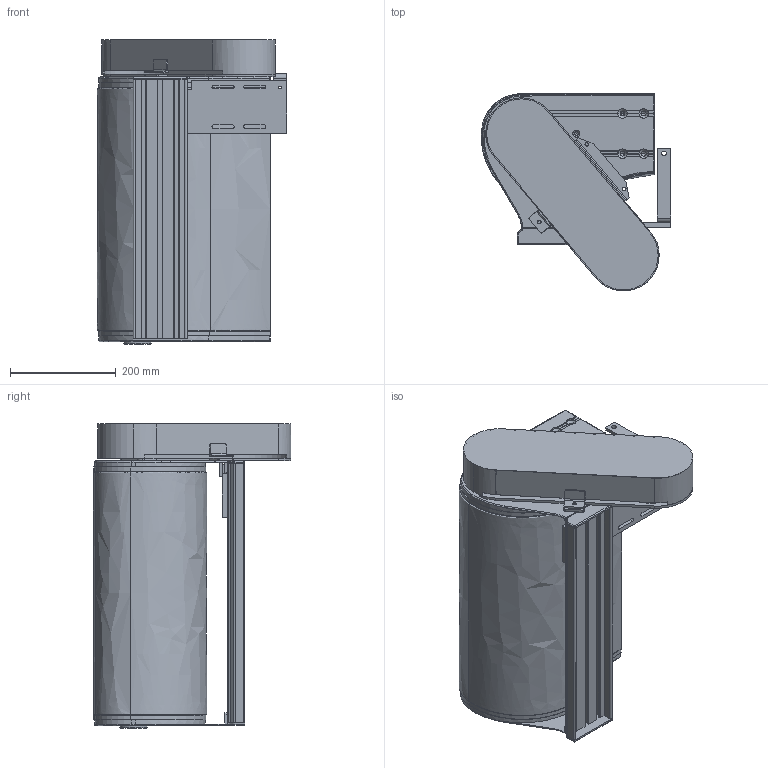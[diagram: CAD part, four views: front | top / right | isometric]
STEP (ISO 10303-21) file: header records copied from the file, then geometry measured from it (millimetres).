
FILE_DESCRIPTION (( 'STEP AP214' ), '1' );
FILE_NAME ('F2 1800 MSG20.step', '2017-04-05T07:30:37', ( '' ), ( '' ), 'SwSTEP 2.0', 'SolidWorks 2015', '' );
FILE_SCHEMA (( 'AUTOMOTIVE_DESIGN' ));
Length unit declared in the file: millimetre
Products named in the file (1): F2 1800 MSG20
Bounding box: 357.48 x 374.02 x 574.55 mm (x, y, z)
Volume: 30609192 mm3; surface area: 1228657.3 mm2
Topology: 8 solids, 8 shells, 819 faces, 2144 edges, 1317 vertices
Faces by surface type: cylinder 362, plane 267, torus 122, cone 40, bspline 28
Entity records: 29466 total; most frequent: CARTESIAN_POINT 7098, DIRECTION 4325, ORIENTED_EDGE 4232, EDGE_CURVE 2116, AXIS2_PLACEMENT_3D 1645, VERTEX_POINT 1317, VECTOR 1035, LINE 1035
